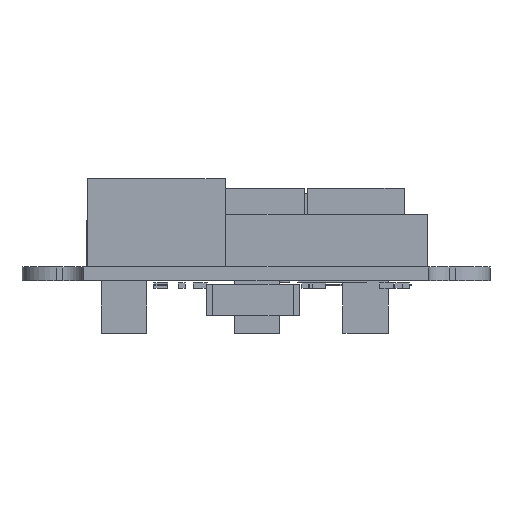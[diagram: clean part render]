
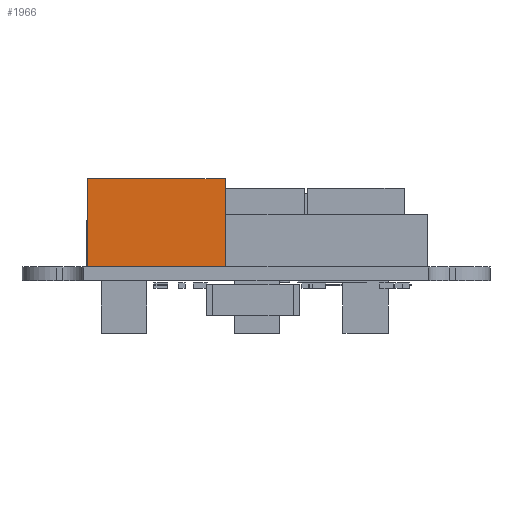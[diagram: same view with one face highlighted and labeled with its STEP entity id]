
A CAD part, front view. The second image highlights one B-rep face of the part: STEP entity #1966.
In plain terms, the highlighted planar face has unit normal (0, -1, 0).
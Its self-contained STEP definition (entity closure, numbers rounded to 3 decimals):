
#1394=FACE_OUTER_BOUND($,#1616,.T.);
#1616=EDGE_LOOP($,(#3097,#3098,#3099,#3100));
#1774=PLANE($,#2340);
#1966=ADVANCED_FACE($,(#1394),#1774,.T.);
#2340=AXIS2_PLACEMENT_3D($,#6549,#5751,$);
#3097=ORIENTED_EDGE($,*,*,#3801,.T.);
#3098=ORIENTED_EDGE($,*,*,#3810,.T.);
#3099=ORIENTED_EDGE($,*,*,#3805,.F.);
#3100=ORIENTED_EDGE($,*,*,#3809,.F.);
#3801=EDGE_CURVE($,#5066,#5063,#4633,.T.);
#3805=EDGE_CURVE($,#5071,#5068,#4637,.T.);
#3809=EDGE_CURVE($,#5066,#5071,#4641,.T.);
#3810=EDGE_CURVE($,#5063,#5068,#4642,.T.);
#4221=VECTOR($,#5738,10.);
#4225=VECTOR($,#5742,10.);
#4229=VECTOR($,#5746,6.4);
#4230=VECTOR($,#5747,6.4);
#4633=LINE($,#6549,#4221);
#4637=LINE($,#6554,#4225);
#4641=LINE($,#6549,#4229);
#4642=LINE($,#6546,#4230);
#5063=VERTEX_POINT($,#6546);
#5066=VERTEX_POINT($,#6549);
#5068=VERTEX_POINT($,#6551);
#5071=VERTEX_POINT($,#6554);
#5738=DIRECTION($,(-1.,0.,0.));
#5742=DIRECTION($,(-1.,0.,0.));
#5746=DIRECTION($,(0.,0.,-1.));
#5747=DIRECTION($,(0.,0.,-1.));
#5751=DIRECTION($,(0.,-1.,0.));
#6546=CARTESIAN_POINT('',(-5.,-7.8,6.4));
#6549=CARTESIAN_POINT('',(5.,-7.8,6.4));
#6551=CARTESIAN_POINT('',(-5.,-7.8,0.));
#6554=CARTESIAN_POINT('',(5.,-7.8,0.));
